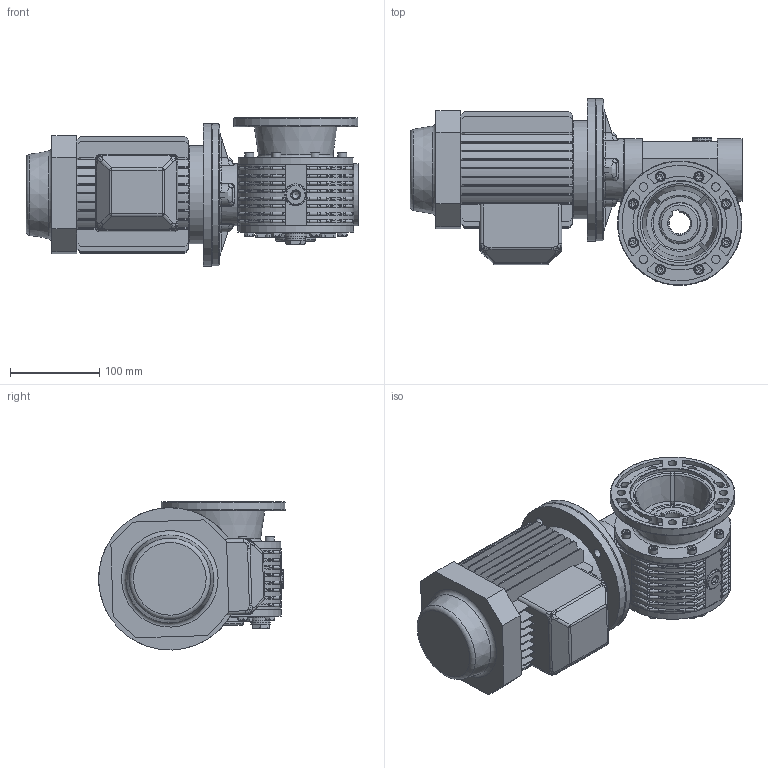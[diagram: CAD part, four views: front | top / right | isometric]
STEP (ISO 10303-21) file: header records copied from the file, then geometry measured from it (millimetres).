
FILE_DESCRIPTION((''),'2;1');
FILE_NAME('Y:\Archivi Inventor\Prog_01\GRAND_20\figuirini\mrv20_sito\71\MRV---20---F1-----71----B5--3D.stp','2013-02-08T16:04:47',('tech3'),(''),'Autodesk Inventor 2013','Autodesk Inventor 2013','');
FILE_SCHEMA(('AUTOMOTIVE_DESIGN { 1 0 10303 214 1 1 1 1 }'));
Length unit declared in the file: millimetre
Products named in the file (19): fig_mrv20_71_b5; mrv20; 0102001; Coperchietto_47x7; Guarnizione 3_8 GAS; Tappo 3_8 GAS_esagn_incsst; mozzo_corona_fig; PARAOLIO 45x60x8; ISO 4017 M6 x 16; 0102029; 0102002-A1_fig; 0102003; Tappo3_8 GAS; ISO 4762 M6 x 16; DIN EN 24017 M6 x 12; 0102028; DIN EN ISO 4762 M6 x 20; 0102006; motori B5 71
Assembly tree (40 placements, depth 3):
  fig_mrv20_71_b5
    mrv20
      0102001
      Coperchietto_47x7
      Guarnizione 3_8 GAS  x3
      Tappo 3_8 GAS_esagn_incsst  x2
      mozzo_corona_fig
      PARAOLIO 45x60x8  x2
      ISO 4017 M6 x 16  x8
      0102029  x2
      0102002-A1_fig
      0102003
      Tappo3_8 GAS
      ISO 4762 M6 x 16  x8
      DIN EN 24017 M6 x 12
      0102028
      DIN EN ISO 4762 M6 x 20  x4
    0102006
    motori B5 71
Bounding box: 373 x 209.7 x 166.31 mm (x, y, z)
Volume: 4246792.5 mm3; surface area: 644968.7 mm2
Topology: 39 solids, 51 shells, 2095 faces, 5084 edges, 3068 vertices
Faces by surface type: plane 918, cylinder 632, bspline 213, torus 183, cone 145, sphere 4
Full cylindrical faces by diameter (mm): 2 x2, 4.917 x20, 6 x21, 6.5 x28, 6.75 x4, 7 x8, 8 x2, 8.88 x9, 9.5 x4, 10 x16, 11 x8, 11.5 x8, 13.046 x1, 14 x1, 14.95 x3, 16.3 x3, 16.5 x2, 22 x6, 25 x2, 40 x1, 41.36 x1, 44.4 x2, 45 x4, 47 x4, 49.5 x1, 50.605 x2, 55.5 x2, 60 x5, 69.5 x1, 70 x2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
Entity records: 62408 total; most frequent: CARTESIAN_POINT 21452, DIRECTION 8482, ORIENTED_EDGE 8058, EDGE_CURVE 4029, AXIS2_PLACEMENT_3D 3379, VERTEX_POINT 2582, EDGE_LOOP 2139, FACE_OUTER_BOUND 1761
